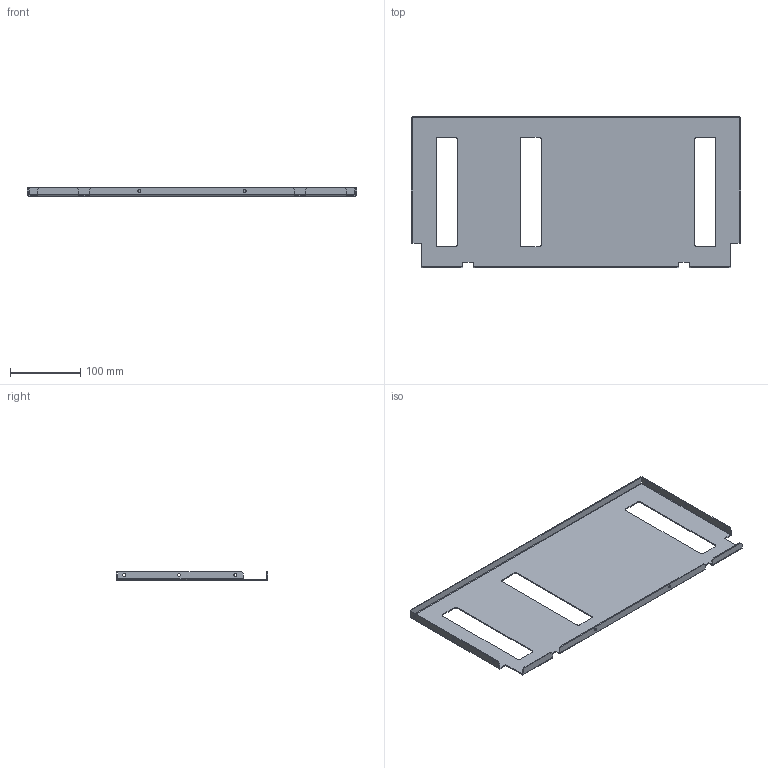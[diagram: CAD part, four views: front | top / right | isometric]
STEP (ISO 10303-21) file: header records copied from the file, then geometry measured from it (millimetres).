
FILE_DESCRIPTION(('CAx-IF Rec.Pracs.---Model Styling and Organization---1.2---2011-12-15','CAx-IF Rec.Pracs.---Geometric and Assembly Validation Properties---4.1---2014-06-16','CAx-IF Rec.Pracs.---PMI Polyline Presentation---2.0---2013-05-24'),'2;1');
FILE_NAME('R5MW5M1BP.stp','2021-05-05T12:59:37+03:00',(''),(''),'STEP Interface 4.4 by CT CoreTechnologie','3D_Evolution4.4 by CT CoreTechnologie','');
FILE_SCHEMA(('AUTOMOTIVE_DESIGN { 1 0 10303 214 1 1 1 1 }'));
Length unit declared in the file: millimetre
Products named in the file (2): R5MW5M1BP; RB.1511.00.00.0_-02
Assembly tree (1 placements, depth 2):
  R5MW5M1BP
    RB.1511.00.00.0_-02
Bounding box: 469 x 216.5 x 12 mm (x, y, z)
Surface area: 200763.5 mm2 (no closed solid volume)
Topology: 0 solids, 1 shells, 102 faces, 276 edges, 176 vertices
Faces by surface type: plane 58, cylinder 40, bspline 4
Entity records: 3369 total; most frequent: CARTESIAN_POINT 632, DIRECTION 556, ORIENTED_EDGE 552, EDGE_CURVE 276, VECTOR 196, LINE 196, AXIS2_PLACEMENT_3D 180, VERTEX_POINT 176
